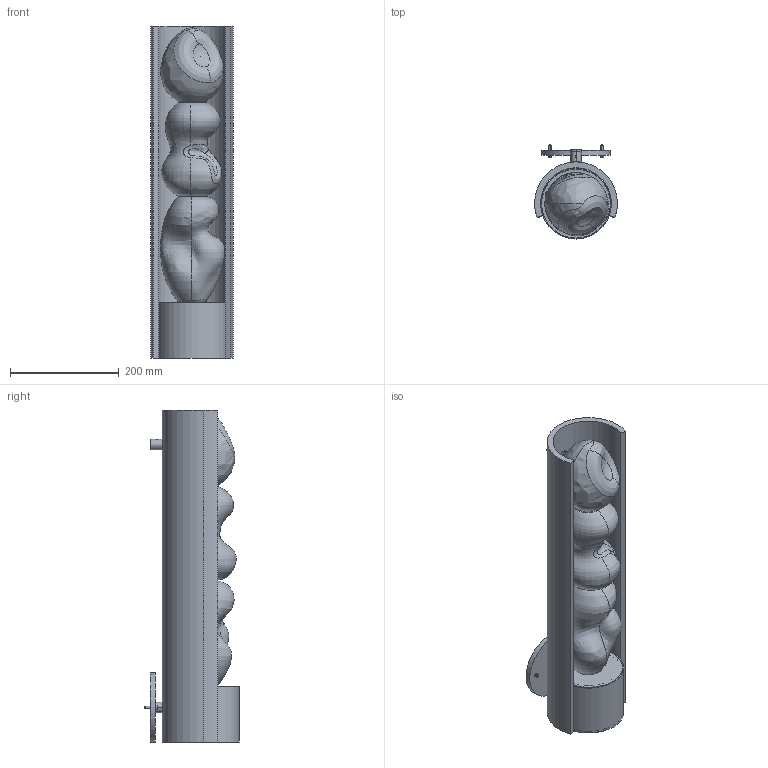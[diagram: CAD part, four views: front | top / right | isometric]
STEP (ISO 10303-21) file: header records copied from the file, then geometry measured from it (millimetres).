
FILE_DESCRIPTION (( 'STEP AP214' ), '1' );
FILE_NAME ('Anna Karlin - Triplet Sconce.STEP', '2026-05-06T19:34:31', ( '' ), ( '' ), 'SwSTEP 2.0', 'SolidWorks 2023', '' );
FILE_SCHEMA (( 'AUTOMOTIVE_DESIGN' ));
Length unit declared in the file: inch
Products named in the file (16): TS_Shade; 91223A338_316 Stainless Steel Ultra-Low-Profile Socket Head Screw_91223A338; TS_Bottom-Cover Rev1; TS_Backplate; TS_Upper-Mount-P1; TS_Base_V2; TS_Check-Collar-2; TS_Bubble-Glass-2_Hollowed 2; TS_Top-Cover; TS_Bubble-Glass-1_Hollowed 2; TS_Bubble-Glass-3_Hollowed 2; 7767T38 - OD0.75 x 0.095T Steel Tube - 0.625in L^Triplet Sconce; Anna Karlin - Triplet Sconce; TS_Check-Collar-1; 90128A197_Zinc-Plated Alloy Steel Socket Head Screw_No Thread; CBU5
Assembly tree (17 placements, depth 2):
  Anna Karlin - Triplet Sconce
    TS_Bottom-Cover Rev1
    TS_Backplate
    TS_Base_V2
    TS_Shade
    TS_Top-Cover
    TS_Upper-Mount-P1
    TS_Bubble-Glass-1_Hollowed 2
    TS_Bubble-Glass-2_Hollowed 2
    TS_Bubble-Glass-3_Hollowed 2
    TS_Check-Collar-1  x2
    TS_Check-Collar-2
    91223A338_316 Stainless Steel Ultra-Low-Profile Socket Head Screw_91223A338
    CBU5
    90128A197_Zinc-Plated Alloy Steel Socket Head Screw_No Thread  x2
    7767T38 - OD0.75 x 0.095T Steel Tube - 0.625in L^Triplet Sconce
Bounding box: 152 x 172.7 x 609.6 mm (x, y, z)
Volume: 3028413.2 mm3; surface area: 864061.6 mm2
Topology: 17 solids, 17 shells, 488 faces, 1197 edges, 762 vertices
Faces by surface type: cylinder 250, plane 106, cone 56, bspline 56, torus 16, sphere 4
Entity records: 360493 total; most frequent: CARTESIAN_POINT 349750, ORIENTED_EDGE 2124, DIRECTION 2101, EDGE_CURVE 1062, AXIS2_PLACEMENT_3D 885, VERTEX_POINT 687, EDGE_LOOP 543, CIRCLE 487
